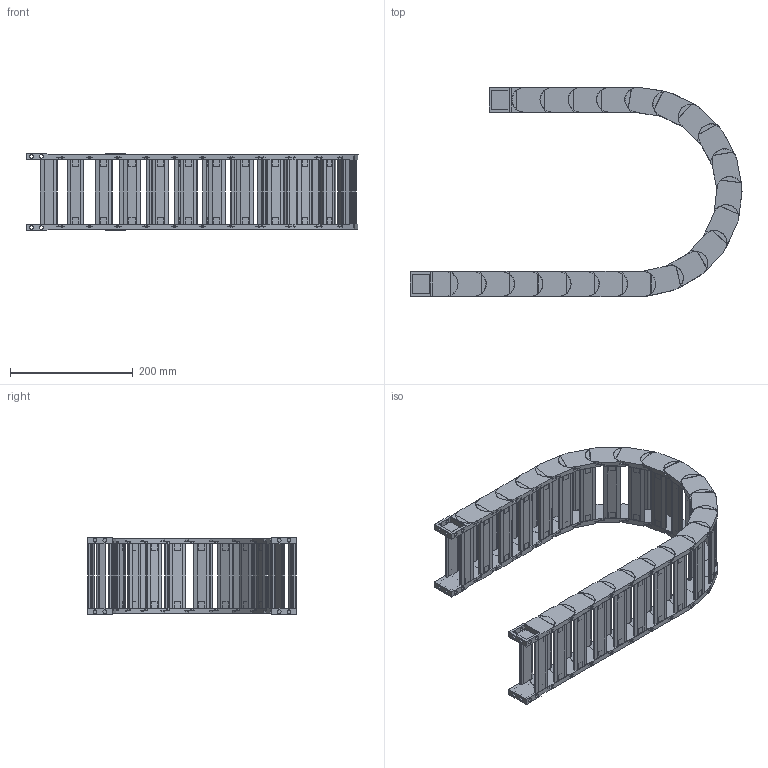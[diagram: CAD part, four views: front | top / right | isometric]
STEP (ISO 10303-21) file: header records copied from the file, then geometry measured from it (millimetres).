
FILE_DESCRIPTION((''),'2;1');
FILE_NAME('HD25-R150-ZPT_ASM','2022-09-04T15:53:40',('admin'),(''),'CREO PARAMETRIC BY PTC INC, 2021164','CREO PARAMETRIC BY PTC INC, 2021164','');
FILE_SCHEMA(('CONFIG_CONTROL_DESIGN','GEOMETRIC_VALIDATION_PROPERTIES_MIM'));
Length unit declared in the file: millimetre
Products named in the file (6): 25XL-QSYP-103; HD30; HD25_ASM; H25-T1; H25-T2; HD25-R150-ZPT_ASM
Assembly tree (27 placements, depth 3):
  HD25-R150-ZPT_ASM
    HD25_ASM  x21
      25XL-QSYP-103
      HD30
    H25-T1
    H25-T2
    25XL-QSYP-103  x2
Bounding box: 540.17 x 340.7 x 125.2 mm (x, y, z)
Volume: 1365648.2 mm3; surface area: 713227 mm2
Topology: 92 solids, 134 shells, 2326 faces, 5887 edges, 3925 vertices
Faces by surface type: plane 1742, cylinder 500, torus 84
Entity records: 10793 total; most frequent: CARTESIAN_POINT 1532, DIRECTION 1478, ORIENTED_EDGE 1406, EDGE_CURVE 703, VECTOR 522, LINE 522, AXIS2_PLACEMENT_3D 478, VERTEX_POINT 469
